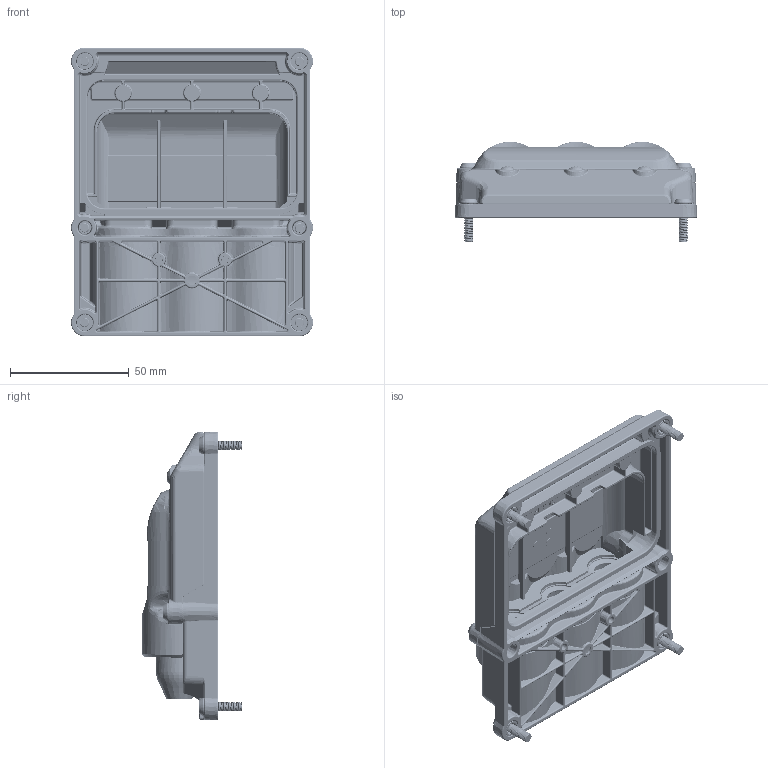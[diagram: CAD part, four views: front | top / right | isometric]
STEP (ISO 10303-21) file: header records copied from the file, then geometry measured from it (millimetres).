
FILE_DESCRIPTION (( 'STEP AP214' ), '1' );
FILE_NAME ('2019-103-002.STEP', '2024-02-15T09:54:04', ( '' ), ( '' ), 'SwSTEP 2.0', 'SolidWorks 2021', '' );
FILE_SCHEMA (( 'AUTOMOTIVE_DESIGN' ));
Length unit declared in the file: millimetre
Products named in the file (11): 2019-103-103; 2019-103-101; 920A-004-006; 910M-004-010; 2019-103-102; 2019-103-002; 2019-103-006; 917A-004-008; 2019-103-005; 910N-004-016; 2019-103-104
Assembly tree (25 placements, depth 3):
  2019-103-002
    2019-103-006
      2019-103-104
      920A-004-006  x4
      917A-004-008  x2
    2019-103-005
      2019-103-101
      920A-004-006  x2
    2019-103-102
    2019-103-103
    910N-004-016  x6
    910M-004-010  x5
Bounding box: 102.03 x 42.27 x 121.86 mm (x, y, z)
Volume: 105658.5 mm3; surface area: 98538.5 mm2
Topology: 23 solids, 23 shells, 4827 faces, 12268 edges, 7556 vertices
Faces by surface type: plane 1491, bspline 1296, cylinder 1214, cone 323, torus 257, sphere 246
Full cylindrical faces by diameter (mm): 0.482 x1, 0.832 x2, 3.3 x2, 3.908 x12, 4 x6, 4.3 x2, 5.2 x2, 6.3 x2, 7 x5, 7.6 x6, 11 x15, 15.8 x6, 16 x9, 17.8 x3, 19.7 x3
Entity records: 173428 total; most frequent: CARTESIAN_POINT 83478, ORIENTED_EDGE 20638, DIRECTION 15975, EDGE_CURVE 10319, VERTEX_POINT 6314, AXIS2_PLACEMENT_3D 6006, EDGE_LOOP 4715, FACE_OUTER_BOUND 4485
